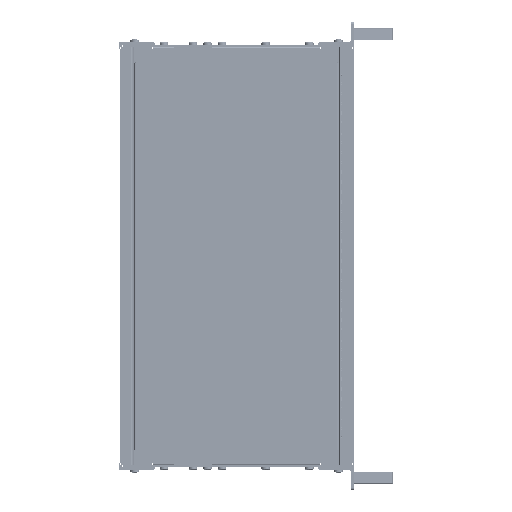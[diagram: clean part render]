
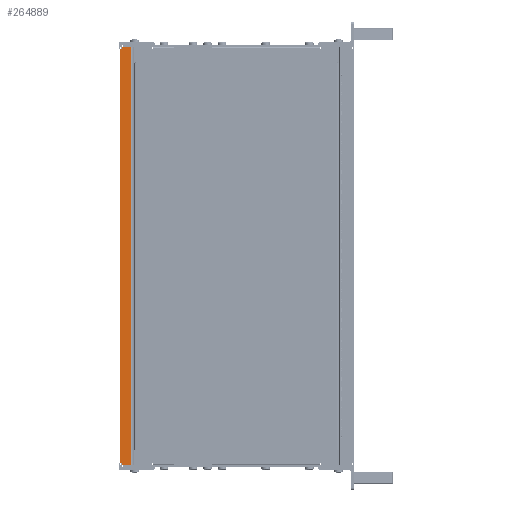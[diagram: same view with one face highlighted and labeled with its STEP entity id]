
A CAD part, front view. The second image highlights one B-rep face of the part: STEP entity #264889.
In plain terms, the highlighted planar face has unit normal (0, -1, 0).
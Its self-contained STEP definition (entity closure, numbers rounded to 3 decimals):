
#12958 = LINE ( 'NONE', #177721, #263477 ) ;
#22275 = DIRECTION ( 'NONE',  ( 0., 0., 1. ) ) ;
#28512 = EDGE_CURVE ( 'NONE', #306411, #211224, #142950, .T. ) ;
#46764 = VERTEX_POINT ( 'NONE', #99325 ) ;
#51128 = CARTESIAN_POINT ( 'NONE',  ( 215.9, -9.4, 10.9 ) ) ;
#56696 = DIRECTION ( 'NONE',  ( 1., 0., 0. ) ) ;
#59689 = LINE ( 'NONE', #318835, #144916 ) ;
#86326 = EDGE_CURVE ( 'NONE', #90224, #183915, #263364, .T. ) ;
#86628 = LINE ( 'NONE', #134785, #247275 ) ;
#90224 = VERTEX_POINT ( 'NONE', #256680 ) ;
#99325 = CARTESIAN_POINT ( 'NONE',  ( 215.9, -9.4, 20.25 ) ) ;
#100467 = EDGE_CURVE ( 'NONE', #380197, #365995, #274845, .T. ) ;
#119965 = CARTESIAN_POINT ( 'NONE',  ( 215.9, -9.4, 23.05 ) ) ;
#127354 = ORIENTED_EDGE ( 'NONE', *, *, #192970, .F. ) ;
#129256 = ORIENTED_EDGE ( 'NONE', *, *, #28512, .F. ) ;
#134785 = CARTESIAN_POINT ( 'NONE',  ( -213.3, -9.4, 10.7 ) ) ;
#141283 = CARTESIAN_POINT ( 'NONE',  ( -215.9, -9.4, 10.7 ) ) ;
#142950 = LINE ( 'NONE', #378620, #359859 ) ;
#144916 = VECTOR ( 'NONE', #375555, 1000. ) ;
#145383 = EDGE_CURVE ( 'NONE', #211224, #90224, #86628, .T. ) ;
#155478 = ORIENTED_EDGE ( 'NONE', *, *, #100467, .F. ) ;
#157486 = VECTOR ( 'NONE', #22275, 1000. ) ;
#163316 = ORIENTED_EDGE ( 'NONE', *, *, #145383, .F. ) ;
#172372 = PLANE ( 'NONE',  #260821 ) ;
#173834 = DIRECTION ( 'NONE',  ( 0., 0., -1. ) ) ;
#177721 = CARTESIAN_POINT ( 'NONE',  ( 215.9, -9.4, 10.7 ) ) ;
#179103 = CARTESIAN_POINT ( 'NONE',  ( 213.3, -9.4, 20.25 ) ) ;
#183915 = VERTEX_POINT ( 'NONE', #199513 ) ;
#190550 = EDGE_CURVE ( 'NONE', #242374, #46764, #59689, .T. ) ;
#192128 = EDGE_LOOP ( 'NONE', ( #390877, #163316, #129256, #127354, #155478, #283412, #194674, #254395 ) ) ;
#192970 = EDGE_CURVE ( 'NONE', #365995, #306411, #285180, .T. ) ;
#194674 = ORIENTED_EDGE ( 'NONE', *, *, #190550, .F. ) ;
#199513 = CARTESIAN_POINT ( 'NONE',  ( 213.3, -9.4, 23.05 ) ) ;
#206761 = DIRECTION ( 'NONE',  ( 0., 0., -1. ) ) ;
#211224 = VERTEX_POINT ( 'NONE', #376759 ) ;
#235824 = CARTESIAN_POINT ( 'NONE',  ( 215.9, -9.4, 10.7 ) ) ;
#240907 = EDGE_CURVE ( 'NONE', #46764, #380197, #12958, .T. ) ;
#241230 = FACE_OUTER_BOUND ( 'NONE', #192128, .T. ) ;
#241599 = CARTESIAN_POINT ( 'NONE',  ( -215.9, -9.4, 20.25 ) ) ;
#242374 = VERTEX_POINT ( 'NONE', #179103 ) ;
#247275 = VECTOR ( 'NONE', #251059, 1000. ) ;
#251059 = DIRECTION ( 'NONE',  ( 0., 0., 1. ) ) ;
#251886 = EDGE_CURVE ( 'NONE', #183915, #242374, #380248, .T. ) ;
#253890 = VECTOR ( 'NONE', #56696, 1000. ) ;
#254395 = ORIENTED_EDGE ( 'NONE', *, *, #251886, .F. ) ;
#256680 = CARTESIAN_POINT ( 'NONE',  ( -213.3, -9.4, 23.05 ) ) ;
#260342 = CARTESIAN_POINT ( 'NONE',  ( 215.9, -9.4, 10.9 ) ) ;
#260821 = AXIS2_PLACEMENT_3D ( 'NONE', #235824, #293833, #325509 ) ;
#263364 = LINE ( 'NONE', #119965, #253890 ) ;
#263477 = VECTOR ( 'NONE', #173834, 1000. ) ;
#264889 = ADVANCED_FACE ( 'NONE', ( #241230 ), #172372, .F. ) ;
#274845 = LINE ( 'NONE', #260342, #298202 ) ;
#283412 = ORIENTED_EDGE ( 'NONE', *, *, #240907, .F. ) ;
#285180 = LINE ( 'NONE', #141283, #157486 ) ;
#293833 = DIRECTION ( 'NONE',  ( 0., 1., 0. ) ) ;
#297151 = DIRECTION ( 'NONE',  ( -1., 0., 0. ) ) ;
#298202 = VECTOR ( 'NONE', #297151, 1000. ) ;
#306411 = VERTEX_POINT ( 'NONE', #241599 ) ;
#318835 = CARTESIAN_POINT ( 'NONE',  ( 215.9, -9.4, 20.25 ) ) ;
#319280 = DIRECTION ( 'NONE',  ( 1., 0., 0. ) ) ;
#325509 = DIRECTION ( 'NONE',  ( 0., 0., 1. ) ) ;
#337248 = CARTESIAN_POINT ( 'NONE',  ( -215.9, -9.4, 10.9 ) ) ;
#351838 = VECTOR ( 'NONE', #206761, 1000. ) ;
#351889 = CARTESIAN_POINT ( 'NONE',  ( 213.3, -9.4, 10.7 ) ) ;
#359859 = VECTOR ( 'NONE', #319280, 1000. ) ;
#365995 = VERTEX_POINT ( 'NONE', #337248 ) ;
#375555 = DIRECTION ( 'NONE',  ( 1., 0., 0. ) ) ;
#376759 = CARTESIAN_POINT ( 'NONE',  ( -213.3, -9.4, 20.25 ) ) ;
#378620 = CARTESIAN_POINT ( 'NONE',  ( 215.9, -9.4, 20.25 ) ) ;
#380197 = VERTEX_POINT ( 'NONE', #51128 ) ;
#380248 = LINE ( 'NONE', #351889, #351838 ) ;
#390877 = ORIENTED_EDGE ( 'NONE', *, *, #86326, .F. ) ;
